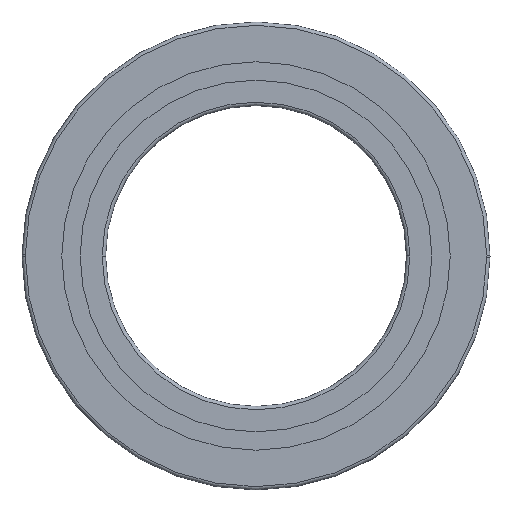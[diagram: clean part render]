
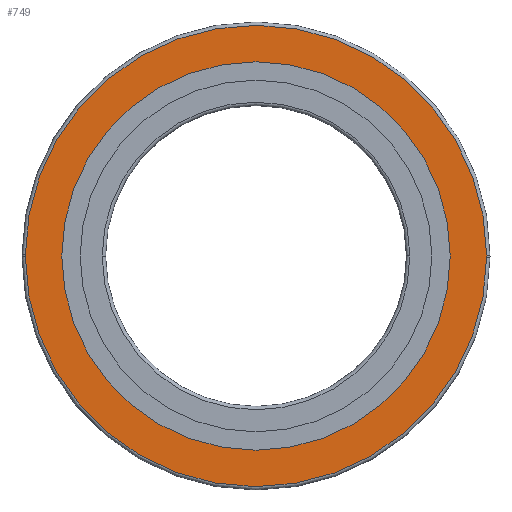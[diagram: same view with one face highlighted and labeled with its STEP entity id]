
A CAD part, front view. The second image highlights one B-rep face of the part: STEP entity #749.
In plain terms, the highlighted planar face has unit normal (0, -1, 0).
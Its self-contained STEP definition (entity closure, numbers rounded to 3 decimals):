
#329=VERTEX_POINT('',#868);
#349=VERTEX_POINT('',#890);
#361=EDGE_CURVE('',#329,#499,#903,.T.);
#365=EDGE_CURVE('',#439,#349,#907,.T.);
#371=VERTEX_POINT('',#913);
#387=VERTEX_POINT('',#932);
#439=VERTEX_POINT('',#991);
#499=VERTEX_POINT('',#1061);
#551=EDGE_CURVE('',#387,#371,#1119,.T.);
#681=EDGE_CURVE('',#349,#439,#1265,.T.);
#749=ADVANCED_FACE('',(#1342,#1343),#1344,.F.);
#755=EDGE_CURVE('',#499,#387,#1350,.T.);
#813=EDGE_CURVE('',#371,#329,#1415,.T.);
#868=CARTESIAN_POINT('',(68.999,0.0,-0.428));
#890=CARTESIAN_POINT('',(-58.1,0.0,0.0));
#903=CIRCLE('',#1514,69.0);
#907=CIRCLE('',#1520,58.1);
#913=CARTESIAN_POINT('',(-69.0,0.0,0.0));
#932=CARTESIAN_POINT('',(-68.999,0.0,0.428));
#991=CARTESIAN_POINT('',(58.1,0.0,0.0));
#1061=CARTESIAN_POINT('',(69.0,0.0,0.0));
#1119=CIRCLE('',#1773,69.0);
#1265=CIRCLE('',#1952,58.1);
#1342=FACE_OUTER_BOUND('',#2053,.T.);
#1343=FACE_BOUND('',#2054,.T.);
#1344=PLANE('',#2055);
#1350=CIRCLE('',#2064,69.0);
#1415=CIRCLE('',#2146,69.0);
#1514=AXIS2_PLACEMENT_3D('',#2223,#2224,#2225);
#1520=AXIS2_PLACEMENT_3D('',#2229,#2230,#2231);
#1773=AXIS2_PLACEMENT_3D('',#2524,#2525,#2526);
#1952=AXIS2_PLACEMENT_3D('',#2726,#2727,#2728);
#2053=EDGE_LOOP('',(#2823,#2824,#2825,#2826));
#2054=EDGE_LOOP('',(#2827,#2828));
#2055=AXIS2_PLACEMENT_3D('',#2829,#2830,#2831);
#2064=AXIS2_PLACEMENT_3D('',#2838,#2839,#2840);
#2146=AXIS2_PLACEMENT_3D('',#2928,#2929,#2930);
#2223=CARTESIAN_POINT('',(0.0,0.0,0.0));
#2224=DIRECTION('',(0.0,-1.0,0.0));
#2225=DIRECTION('',(-1.0,0.0,0.0));
#2229=CARTESIAN_POINT('',(0.0,0.0,0.0));
#2230=DIRECTION('',(0.0,-1.0,0.0));
#2231=DIRECTION('',(1.0,0.0,0.0));
#2524=CARTESIAN_POINT('',(0.0,0.0,0.0));
#2525=DIRECTION('',(0.0,-1.0,0.0));
#2526=DIRECTION('',(1.0,0.0,0.0));
#2726=CARTESIAN_POINT('',(0.0,0.0,0.0));
#2727=DIRECTION('',(0.0,-1.0,0.0));
#2728=DIRECTION('',(-1.0,0.0,0.0));
#2823=ORIENTED_EDGE('',*,*,#755,.T.);
#2824=ORIENTED_EDGE('',*,*,#551,.T.);
#2825=ORIENTED_EDGE('',*,*,#813,.T.);
#2826=ORIENTED_EDGE('',*,*,#361,.T.);
#2827=ORIENTED_EDGE('',*,*,#681,.F.);
#2828=ORIENTED_EDGE('',*,*,#365,.F.);
#2829=CARTESIAN_POINT('',(0.0,0.0,0.0));
#2830=DIRECTION('',(0.0,1.0,0.0));
#2831=DIRECTION('',(1.0,0.0,-0.0));
#2838=CARTESIAN_POINT('',(0.0,0.0,0.0));
#2839=DIRECTION('',(0.0,-1.0,0.0));
#2840=DIRECTION('',(1.0,0.0,0.0));
#2928=CARTESIAN_POINT('',(0.0,0.0,0.0));
#2929=DIRECTION('',(0.0,-1.0,0.0));
#2930=DIRECTION('',(-1.0,0.0,0.0));
